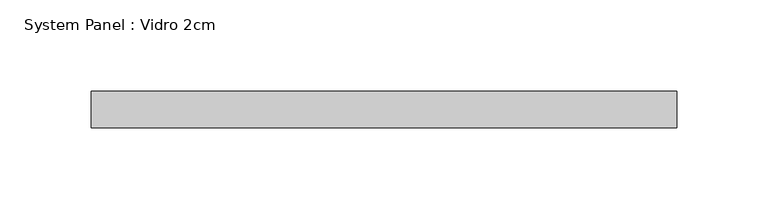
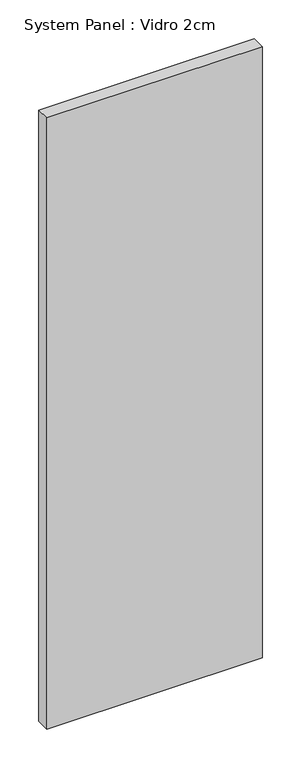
"""IFC4 building model written with IfcOpenShell, lengths in millimetres: plate geometry, System Panel : Vidro 2cm."""

from ifc_helpers import new_model, si_unit, origin, origin_with_axes, place, context, project, spatial, polyline, outline, extrude, source, transform, mapped, element, save


def system_panel_vidro_2cm_ac0d1a9e(model_context):
    return source(origin(), model_context, "Body", "SweptSolid", [
        extrude(outline(polyline([(159.9999998, -20.0), (-159.9999998, -20.0), (-159.9999998, 0.0), (159.9999998, 0.0), (159.9999998, -20.0)])), origin_with_axes(), (0.0, 0.0, 1.0), 960.0),
    ])


if __name__ == "__main__":
    model = new_model("IFC4")
    model_context = context("Model", 3, world=origin())
    ifc_project = project(units=[si_unit("LENGTHUNIT", "METRE", prefix="MILLI")], contexts=[model_context])
    site = spatial("IfcSite", under=ifc_project)
    building = spatial("IfcBuilding", under=site)
    placement = place(None, origin())
    system_panel_vidro_2cm_shape = system_panel_vidro_2cm_ac0d1a9e(model_context)
    element("IfcPlate", 1, ObjectType="System Panel : Vidro 2cm", at=placement, inside=building, context=model_context, shape_type="MappedRepresentation", body=[
        mapped(system_panel_vidro_2cm_shape, transform((0.0, 0.0, 0.0), x_axis=(1.0, 0.0, 0.0), y_axis=(0.0, 1.0, 0.0), z_axis=(0.0, 0.0, 1.0))),
    ])
    save(model, "model.ifc")
